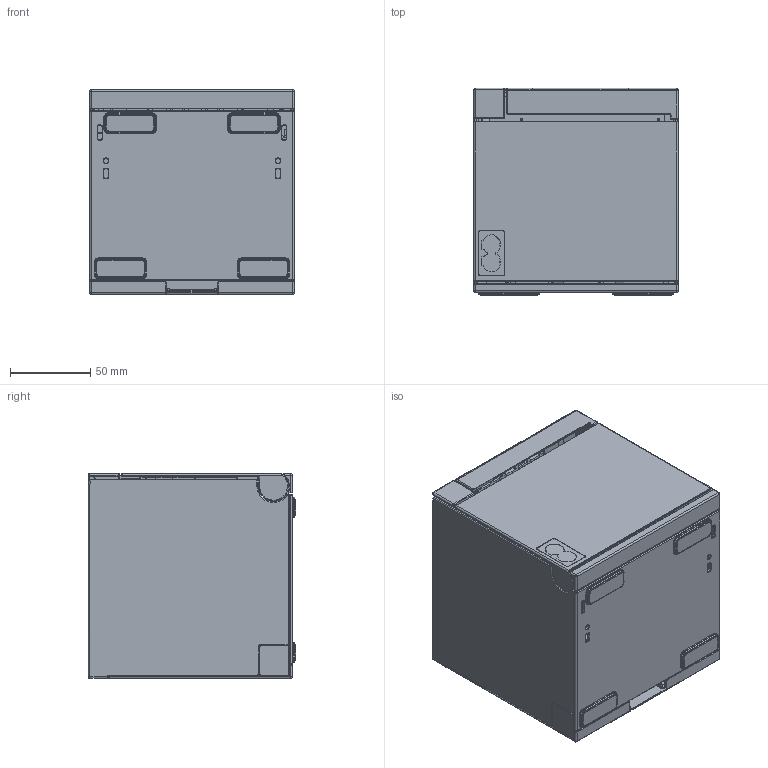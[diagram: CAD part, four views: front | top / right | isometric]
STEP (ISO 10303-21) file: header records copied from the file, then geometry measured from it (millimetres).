
FILE_DESCRIPTION((''),'2;1');
FILE_NAME('TM-M30III_FRONT_CLOSE_SW0001','2025-01-23T14:31:04',('0092109'),(''),'CREO PARAMETRIC BY PTC INC, 2022281','CREO PARAMETRIC BY PTC INC, 2022281','');
FILE_SCHEMA(('AUTOMOTIVE_DESIGN { 1 0 10303 214 1 1 1 1 }'));
Products named in the file (1): TM-M30III_FRONT_CLOSE_SW0001
Bounding box: 127 x 129 x 127.4 mm (x, y, z)
Surface area: 225839.9 mm2 (no closed solid volume)
Topology: 0 solids, 27 shells, 2958 faces, 8366 edges, 5416 vertices
Faces by surface type: plane 1506, cylinder 1056, torus 205, bspline 88, sphere 71, cone 31, extrusion 1
Entity records: 100670 total; most frequent: CARTESIAN_POINT 23613, DIRECTION 16116, ORIENTED_EDGE 15744, EDGE_CURVE 8366, VECTOR 5634, LINE 5633, VERTEX_POINT 5416, AXIS2_PLACEMENT_3D 5241
